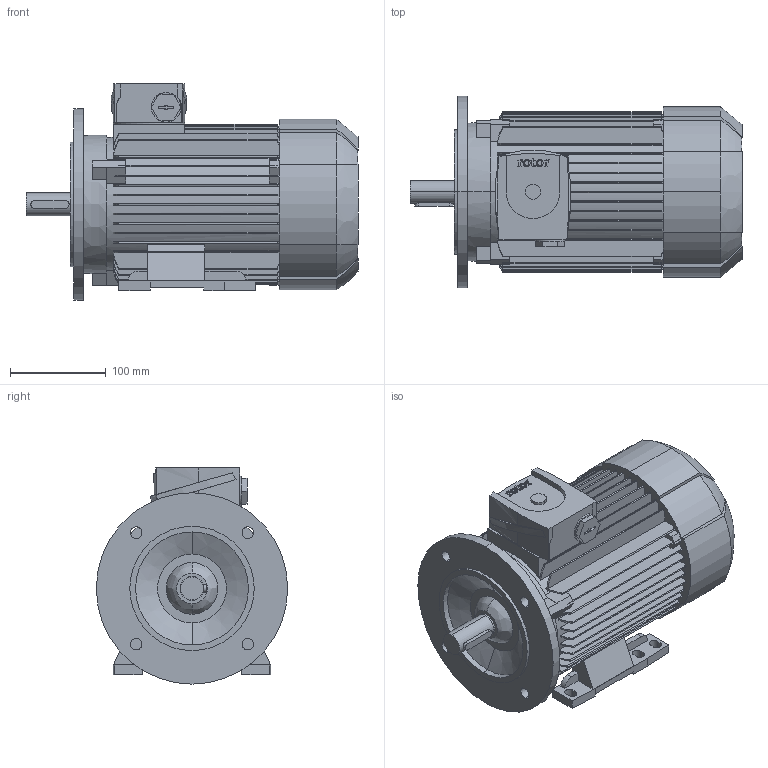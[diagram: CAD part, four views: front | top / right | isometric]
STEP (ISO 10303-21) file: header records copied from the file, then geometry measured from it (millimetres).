
FILE_DESCRIPTION (( 'STEP AP214' ), '1' );
FILE_NAME ('6RN90L04E24 IM2001.STEP', '2014-09-22T07:30:47', ( 'rbc_ict' ), ( 'REGAL' ), 'SwSTEP 2.0', 'SolidWorks 2012', '' );
FILE_SCHEMA (( 'AUTOMOTIVE_DESIGN' ));
Length unit declared in the file: millimetre
Products named in the file (1): 6RN90L04E24 IM2001
Bounding box: 347 x 200 x 226 mm (x, y, z)
Volume: 6061040 mm3; surface area: 501454.4 mm2
Topology: 1 solids, 1 shells, 675 faces, 1958 edges, 1301 vertices
Faces by surface type: plane 401, bspline 135, cylinder 135, cone 4
Entity records: 25837 total; most frequent: CARTESIAN_POINT 8550, ORIENTED_EDGE 3916, DIRECTION 3244, EDGE_CURVE 1958, VERTEX_POINT 1301, LINE 1130, VECTOR 1130, AXIS2_PLACEMENT_3D 1057
